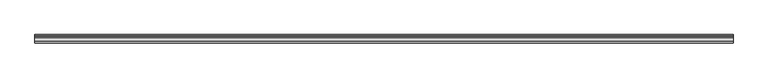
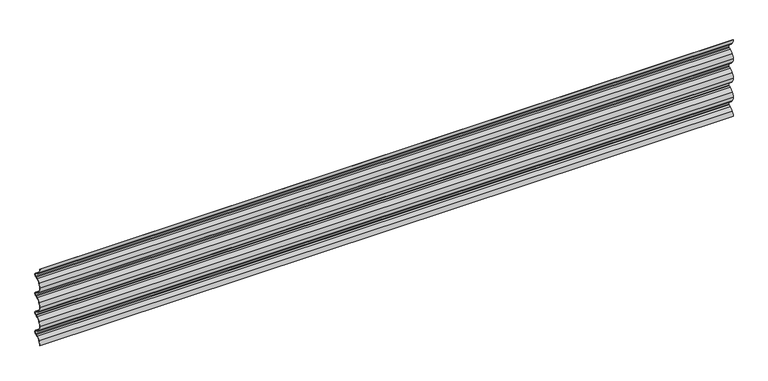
"""IFC4 building model written with IfcOpenShell, lengths in millimetres: plate geometry, Regolare Horizontal 356 : Regolare Horizontal 356."""

from ifc_helpers import new_model, si_unit, point, frame, frame_2d, origin, place, context, project, spatial, polyline, circle_curve, trimmed, segment, composite_curve, outline, extrude, source, transform, mapped, element, save


def plate_9217dd34(model_context):
    return source(origin(), model_context, "Body", "SweptSolid", [
        extrude(outline(composite_curve([segment(trimmed(circle_curve(frame_2d((32.6206681, 352.6403111)), 30.6166783), [point((6.5021495, 336.6652062))], [point((21.2504634, 324.2132212))], True, "CARTESIAN"), True, "CONTINUOUS"), segment(polyline([(21.2504634, 324.2132212), (28.4448583, 321.3316353), (31.9093405, 319.6710106)]), True, "CONTINUOUS"), segment(trimmed(circle_curve(frame_2d((28.0791236, 311.6802118)), 8.8613445), [point((31.9093405, 319.6710106))], [point((31.9093405, 303.689413))], False, "CARTESIAN"), True, "CONTINUOUS"), segment(polyline([(31.9093405, 303.689413), (28.4448583, 302.0287882), (21.2504634, 299.1472023)]), True, "CONTINUOUS"), segment(trimmed(circle_curve(frame_2d((32.6206681, 270.7201125)), 30.6166783), [point((21.2504634, 299.1472023))], [point((6.5021495, 286.6952174))], True, "CARTESIAN"), True, "CONTINUOUS"), segment(trimmed(circle_curve(frame_2d((38.4503244, 267.1544672)), 37.4503244), [point((6.5021495, 286.6952174))], [point((1.0, 267.1544672))], True, "CARTESIAN"), True, "CONTINUOUS"), segment(trimmed(circle_curve(frame_2d((38.4503244, 267.1544672)), 37.4503244), [point((1.0, 267.1544672))], [point((6.5021495, 247.6137171))], True, "CARTESIAN"), True, "CONTINUOUS"), segment(trimmed(circle_curve(frame_2d((32.6206681, 263.588822)), 30.6166783), [point((6.5021495, 247.6137171))], [point((21.2504634, 235.1617322))], True, "CARTESIAN"), True, "CONTINUOUS"), segment(polyline([(21.2504634, 235.1617322), (28.4448583, 232.2801463), (31.9093405, 230.6195215)]), True, "CONTINUOUS"), segment(trimmed(circle_curve(frame_2d((28.0791236, 222.6287227)), 8.8613445), [point((31.9093405, 230.6195215))], [point((31.9093405, 214.6379239))], False, "CARTESIAN"), True, "CONTINUOUS"), segment(polyline([(31.9093405, 214.6379239), (28.4448583, 212.9772992), (21.2504634, 210.0957133)]), True, "CONTINUOUS"), segment(trimmed(circle_curve(frame_2d((32.6206681, 181.6686234)), 30.6166783), [point((21.2504634, 210.0957133))], [point((6.5021495, 197.6437283))], True, "CARTESIAN"), True, "CONTINUOUS"), segment(trimmed(circle_curve(frame_2d((38.4503244, 178.1029782)), 37.4503244), [point((6.5021495, 197.6437283))], [point((1.0, 178.1029782))], True, "CARTESIAN"), True, "CONTINUOUS"), segment(trimmed(circle_curve(frame_2d((38.4503244, 178.1029782)), 37.4503244), [point((1.0, 178.1029782))], [point((6.5021495, 158.562228))], True, "CARTESIAN"), True, "CONTINUOUS"), segment(trimmed(circle_curve(frame_2d((32.6206681, 174.5373329)), 30.6166783), [point((6.5021495, 158.562228))], [point((21.2504634, 146.1102431))], True, "CARTESIAN"), True, "CONTINUOUS"), segment(polyline([(21.2504634, 146.1102431), (28.4448583, 143.2286572), (31.9093405, 141.5680324)]), True, "CONTINUOUS"), segment(trimmed(circle_curve(frame_2d((28.0791236, 133.5772336)), 8.8613445), [point((31.9093405, 141.5680324))], [point((31.9093405, 125.5864348))], False, "CARTESIAN"), True, "CONTINUOUS"), segment(polyline([(31.9093405, 125.5864348), (28.4448583, 123.9258101), (21.2504634, 121.0442242)]), True, "CONTINUOUS"), segment(trimmed(circle_curve(frame_2d((32.6206681, 92.6171343)), 30.6166783), [point((21.2504634, 121.0442242))], [point((6.5021495, 108.5922392))], True, "CARTESIAN"), True, "CONTINUOUS"), segment(trimmed(circle_curve(frame_2d((38.4503244, 89.0514891)), 37.4503244), [point((6.5021495, 108.5922392))], [point((1.0, 89.0514891))], True, "CARTESIAN"), True, "CONTINUOUS"), segment(trimmed(circle_curve(frame_2d((38.4503244, 89.0514891)), 37.4503244), [point((1.0, 89.0514891))], [point((6.5021495, 69.5107389))], True, "CARTESIAN"), True, "CONTINUOUS"), segment(trimmed(circle_curve(frame_2d((32.6206681, 85.4858438)), 30.6166783), [point((6.5021495, 69.5107389))], [point((21.2504634, 57.058754))], True, "CARTESIAN"), True, "CONTINUOUS"), segment(polyline([(21.2504634, 57.058754), (28.4448583, 54.1771681), (31.9093405, 52.5165434)]), True, "CONTINUOUS"), segment(trimmed(circle_curve(frame_2d((28.0791236, 44.5257445)), 8.8613445), [point((31.9093405, 52.5165434))], [point((31.9093405, 36.5349457))], False, "CARTESIAN"), True, "CONTINUOUS"), segment(polyline([(31.9093405, 36.5349457), (28.4448583, 34.874321), (21.2504634, 31.9927351)]), True, "CONTINUOUS"), segment(trimmed(circle_curve(frame_2d((32.6206681, 3.5656452)), 30.6166783), [point((21.2504634, 31.9927351))], [point((6.5021495, 19.5407501))], True, "CARTESIAN"), True, "CONTINUOUS"), segment(trimmed(circle_curve(frame_2d((38.4503244, 0.0)), 37.4503244), [point((6.5021495, 19.5407501))], [point((1.0, 0.0))], True, "CARTESIAN"), True, "CONTINUOUS"), segment(polyline([(1.0, 0.0), (0.0, 0.0)]), True, "CONTINUOUS"), segment(trimmed(circle_curve(frame_2d((38.4503244, 0.0)), 38.4503244), [point((0.0, 0.0))], [point((5.6490681, 20.062528))], False, "CARTESIAN"), True, "CONTINUOUS"), segment(trimmed(circle_curve(frame_2d((32.6206681, 3.5656452)), 31.6166783), [point((5.6490681, 20.062528))], [point((20.878867, 32.9211295))], False, "CARTESIAN"), True, "CONTINUOUS"), segment(polyline([(20.878867, 32.9211295), (28.0423924, 35.7903512), (31.4771017, 37.4367049)]), True, "CONTINUOUS"), segment(trimmed(circle_curve(frame_2d((28.0791236, 44.5257445)), 7.8613445), [point((31.4771017, 37.4367049))], [point((31.4771017, 51.6147842))], True, "CARTESIAN"), True, "CONTINUOUS"), segment(polyline([(31.4771017, 51.6147842), (28.0423924, 53.2611379), (20.878867, 56.1303596)]), True, "CONTINUOUS"), segment(trimmed(circle_curve(frame_2d((32.6206681, 85.4858438)), 31.6166783), [point((20.878867, 56.1303596))], [point((5.6490681, 68.9889611))], False, "CARTESIAN"), True, "CONTINUOUS"), segment(trimmed(circle_curve(frame_2d((38.4503244, 89.0514891)), 38.4503244), [point((5.6490681, 68.9889611))], [point((0.0, 89.0514891))], False, "CARTESIAN"), True, "CONTINUOUS"), segment(trimmed(circle_curve(frame_2d((38.4503244, 89.0514891)), 38.4503244), [point((0.0, 89.0514891))], [point((5.6490681, 109.1140171))], False, "CARTESIAN"), True, "CONTINUOUS"), segment(trimmed(circle_curve(frame_2d((32.6206681, 92.6171343)), 31.6166783), [point((5.6490681, 109.1140171))], [point((20.878867, 121.9726185))], False, "CARTESIAN"), True, "CONTINUOUS"), segment(polyline([(20.878867, 121.9726185), (28.0423924, 124.8418403), (31.4771017, 126.488194)]), True, "CONTINUOUS"), segment(trimmed(circle_curve(frame_2d((28.0791236, 133.5772336)), 7.8613445), [point((31.4771017, 126.488194))], [point((31.4771017, 140.6662733))], True, "CARTESIAN"), True, "CONTINUOUS"), segment(polyline([(31.4771017, 140.6662733), (28.0423924, 142.312627), (20.878867, 145.1818487)]), True, "CONTINUOUS"), segment(trimmed(circle_curve(frame_2d((32.6206681, 174.5373329)), 31.6166783), [point((20.878867, 145.1818487))], [point((5.6490681, 158.0404502))], False, "CARTESIAN"), True, "CONTINUOUS"), segment(trimmed(circle_curve(frame_2d((38.4503244, 178.1029782)), 38.4503244), [point((5.6490681, 158.0404502))], [point((0.0, 178.1029782))], False, "CARTESIAN"), True, "CONTINUOUS"), segment(trimmed(circle_curve(frame_2d((38.4503244, 178.1029782)), 38.4503244), [point((0.0, 178.1029782))], [point((5.6490681, 198.1655062))], False, "CARTESIAN"), True, "CONTINUOUS"), segment(trimmed(circle_curve(frame_2d((32.6206681, 181.6686234)), 31.6166783), [point((5.6490681, 198.1655062))], [point((20.878867, 211.0241076))], False, "CARTESIAN"), True, "CONTINUOUS"), segment(polyline([(20.878867, 211.0241076), (28.0423924, 213.8933293), (31.4771017, 215.5396831)]), True, "CONTINUOUS"), segment(trimmed(circle_curve(frame_2d((28.0791236, 222.6287227)), 7.8613445), [point((31.4771017, 215.5396831))], [point((31.4771017, 229.7177623))], True, "CARTESIAN"), True, "CONTINUOUS"), segment(polyline([(31.4771017, 229.7177623), (28.0423924, 231.3641161), (20.878867, 234.2333378)]), True, "CONTINUOUS"), segment(trimmed(circle_curve(frame_2d((32.6206681, 263.588822)), 31.6166783), [point((20.878867, 234.2333378))], [point((5.6490681, 247.0919392))], False, "CARTESIAN"), True, "CONTINUOUS"), segment(trimmed(circle_curve(frame_2d((38.4503244, 267.1544672)), 38.4503244), [point((5.6490681, 247.0919392))], [point((0.0, 267.1544672))], False, "CARTESIAN"), True, "CONTINUOUS"), segment(trimmed(circle_curve(frame_2d((38.4503244, 267.1544672)), 38.4503244), [point((0.0, 267.1544672))], [point((5.6490681, 287.2169952))], False, "CARTESIAN"), True, "CONTINUOUS"), segment(trimmed(circle_curve(frame_2d((32.6206681, 270.7201125)), 31.6166783), [point((5.6490681, 287.2169952))], [point((20.878867, 300.0755967))], False, "CARTESIAN"), True, "CONTINUOUS"), segment(polyline([(20.878867, 300.0755967), (28.0423924, 302.9448184), (31.4771017, 304.5911721)]), True, "CONTINUOUS"), segment(trimmed(circle_curve(frame_2d((28.0791236, 311.6802118)), 7.8613445), [point((31.4771017, 304.5911721))], [point((31.4771017, 318.7692514))], True, "CARTESIAN"), True, "CONTINUOUS"), segment(polyline([(31.4771017, 318.7692514), (28.0423924, 320.4156051), (20.878867, 323.2848269)]), True, "CONTINUOUS"), segment(trimmed(circle_curve(frame_2d((32.6206681, 352.6403111)), 31.6166783), [point((20.878867, 323.2848269))], [point((5.6490681, 336.1434283))], False, "CARTESIAN"), True, "CONTINUOUS"), segment(trimmed(circle_curve(frame_2d((38.4503244, 356.2059563)), 38.4503244), [point((5.6490681, 336.1434283))], [point((0.0, 356.2059563))], False, "CARTESIAN"), True, "CONTINUOUS"), segment(polyline([(0.0, 356.2059563), (1.0, 356.2059563)]), True, "CONTINUOUS"), segment(trimmed(circle_curve(frame_2d((38.4503244, 356.2059563)), 37.4503244), [point((1.0, 356.2059563))], [point((6.5021495, 336.6652062))], True, "CARTESIAN"), True, "CONTINUOUS")], self_intersect=False)), frame((-1524.5, 0.0, 0.0), z_axis=(1.0, 0.0, 0.0), x_axis=(0.0, 1.0, 0.0)), (0.0, 0.0, 1.0), 3049.0),
    ])


if __name__ == "__main__":
    model = new_model("IFC4")
    model_context = context("Model", 3, world=origin())
    ifc_project = project(units=[si_unit("LENGTHUNIT", "METRE", prefix="MILLI")], contexts=[model_context])
    site = spatial("IfcSite", under=ifc_project)
    building = spatial("IfcBuilding", under=site)
    placement = place(None, origin())
    plate_shape = plate_9217dd34(model_context)
    element("IfcPlate", 1, ObjectType="Regolare Horizontal 356 : Regolare Horizontal 356", at=placement, inside=building, context=model_context, shape_type="MappedRepresentation", body=[
        mapped(plate_shape, transform((0.0, 0.0, 0.0), x_axis=(1.0, 0.0, 0.0), y_axis=(0.0, 1.0, 0.0), z_axis=(0.0, 0.0, 1.0))),
    ])
    save(model, "model.ifc")
